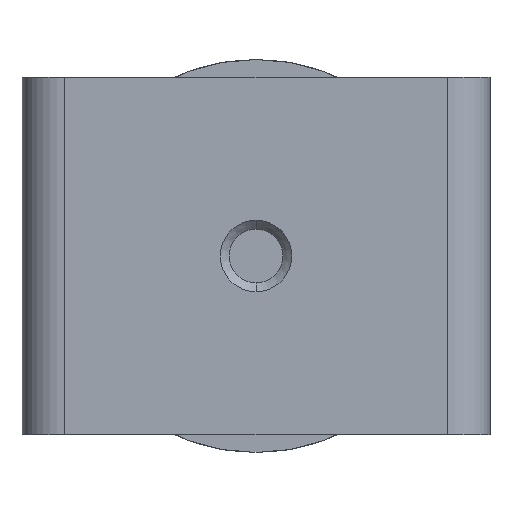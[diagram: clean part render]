
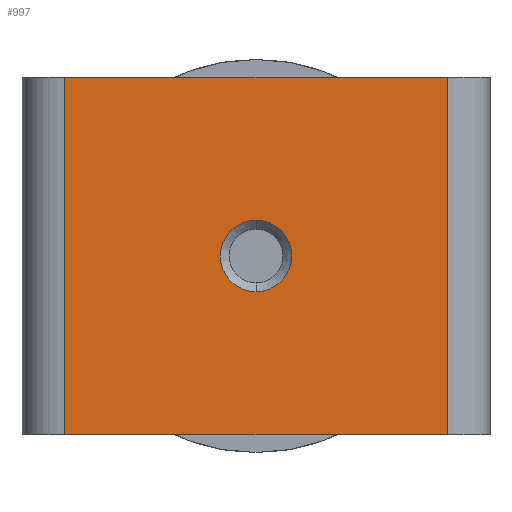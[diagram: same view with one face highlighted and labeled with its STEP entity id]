
A CAD part, front view. The second image highlights one B-rep face of the part: STEP entity #997.
In plain terms, the highlighted planar face has unit normal (0, -1, 0).
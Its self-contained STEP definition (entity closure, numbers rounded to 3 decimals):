
#6 = ORIENTED_EDGE ( 'NONE', *, *, #3351, .F. ) ;
#80 = DIRECTION ( 'NONE',  ( 0., -1., 0. ) ) ;
#165 = DIRECTION ( 'NONE',  ( 0., 0., -1. ) ) ;
#496 = CARTESIAN_POINT ( 'NONE',  ( 0., -33.17, -12. ) ) ;
#556 = DIRECTION ( 'NONE',  ( 0., 0., 1. ) ) ;
#739 = VECTOR ( 'NONE', #2695, 1000. ) ;
#792 = CIRCLE ( 'NONE', #4490, 2. ) ;
#913 = VERTEX_POINT ( 'NONE', #2256 ) ;
#963 = FACE_BOUND ( 'NONE', #1555, .T. ) ;
#997 = ADVANCED_FACE ( 'NONE', ( #963, #2791 ), #4216, .F. ) ;
#1231 = CARTESIAN_POINT ( 'NONE',  ( 0., -33.17, 0. ) ) ;
#1325 = CARTESIAN_POINT ( 'NONE',  ( -10.7, -33.17, -10. ) ) ;
#1415 = CARTESIAN_POINT ( 'NONE',  ( 10.7, -33.17, -10. ) ) ;
#1555 = EDGE_LOOP ( 'NONE', ( #2445, #6 ) ) ;
#1714 = LINE ( 'NONE', #4156, #739 ) ;
#1791 = VERTEX_POINT ( 'NONE', #2065 ) ;
#1936 = CARTESIAN_POINT ( 'NONE',  ( 10.7, -33.17, -20. ) ) ;
#1973 = EDGE_CURVE ( 'NONE', #1791, #3763, #4644, .T. ) ;
#2023 = AXIS2_PLACEMENT_3D ( 'NONE', #3482, #2759, #556 ) ;
#2065 = CARTESIAN_POINT ( 'NONE',  ( 10.7, -33.17, 0. ) ) ;
#2216 = CARTESIAN_POINT ( 'NONE',  ( -10.7, -33.17, 0. ) ) ;
#2256 = CARTESIAN_POINT ( 'NONE',  ( 0., -33.17, -8. ) ) ;
#2259 = CARTESIAN_POINT ( 'NONE',  ( 0., -33.17, -10. ) ) ;
#2335 = DIRECTION ( 'NONE',  ( -1., 0., 0. ) ) ;
#2352 = DIRECTION ( 'NONE',  ( 0., -1., 0. ) ) ;
#2445 = ORIENTED_EDGE ( 'NONE', *, *, #3851, .F. ) ;
#2504 = VERTEX_POINT ( 'NONE', #1936 ) ;
#2558 = EDGE_CURVE ( 'NONE', #3708, #2504, #1714, .T. ) ;
#2617 = EDGE_LOOP ( 'NONE', ( #4349, #3368, #4473, #4352 ) ) ;
#2628 = DIRECTION ( 'NONE',  ( 0., 0., -1. ) ) ;
#2695 = DIRECTION ( 'NONE',  ( 1., 0., 0. ) ) ;
#2759 = DIRECTION ( 'NONE',  ( 0., 1., 0. ) ) ;
#2791 = FACE_OUTER_BOUND ( 'NONE', #2617, .T. ) ;
#2985 = LINE ( 'NONE', #1415, #4088 ) ;
#3162 = CIRCLE ( 'NONE', #3697, 2. ) ;
#3198 = EDGE_CURVE ( 'NONE', #3708, #3763, #4283, .T. ) ;
#3280 = CARTESIAN_POINT ( 'NONE',  ( -10.7, -33.17, -20. ) ) ;
#3307 = VECTOR ( 'NONE', #3538, 1000. ) ;
#3322 = VERTEX_POINT ( 'NONE', #496 ) ;
#3351 = EDGE_CURVE ( 'NONE', #913, #3322, #792, .T. ) ;
#3368 = ORIENTED_EDGE ( 'NONE', *, *, #3648, .F. ) ;
#3482 = CARTESIAN_POINT ( 'NONE',  ( -10.7, -33.17, -20. ) ) ;
#3538 = DIRECTION ( 'NONE',  ( 0., 0., 1. ) ) ;
#3648 = EDGE_CURVE ( 'NONE', #1791, #2504, #2985, .T. ) ;
#3674 = VECTOR ( 'NONE', #2335, 1000. ) ;
#3697 = AXIS2_PLACEMENT_3D ( 'NONE', #2259, #80, #2628 ) ;
#3708 = VERTEX_POINT ( 'NONE', #3280 ) ;
#3763 = VERTEX_POINT ( 'NONE', #2216 ) ;
#3851 = EDGE_CURVE ( 'NONE', #3322, #913, #3162, .T. ) ;
#3989 = DIRECTION ( 'NONE',  ( 0., 0., -1. ) ) ;
#4088 = VECTOR ( 'NONE', #3989, 1000. ) ;
#4156 = CARTESIAN_POINT ( 'NONE',  ( 0., -33.17, -20. ) ) ;
#4216 = PLANE ( 'NONE',  #2023 ) ;
#4283 = LINE ( 'NONE', #1325, #3307 ) ;
#4349 = ORIENTED_EDGE ( 'NONE', *, *, #2558, .T. ) ;
#4352 = ORIENTED_EDGE ( 'NONE', *, *, #3198, .F. ) ;
#4473 = ORIENTED_EDGE ( 'NONE', *, *, #1973, .T. ) ;
#4490 = AXIS2_PLACEMENT_3D ( 'NONE', #4560, #2352, #165 ) ;
#4560 = CARTESIAN_POINT ( 'NONE',  ( 0., -33.17, -10. ) ) ;
#4644 = LINE ( 'NONE', #1231, #3674 ) ;
